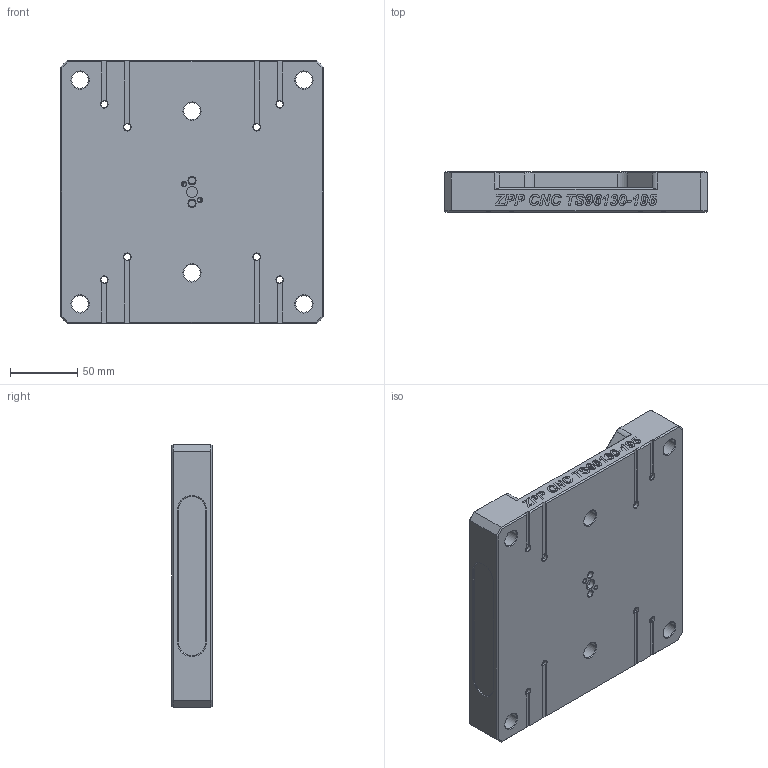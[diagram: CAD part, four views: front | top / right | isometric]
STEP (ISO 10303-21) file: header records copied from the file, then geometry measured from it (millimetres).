
FILE_DESCRIPTION((''),'2;1');
FILE_NAME('TS96130-195','2025-12-11T17:14:03',('XF'),(''),'CREO PARAMETRIC BY PTC INC, 2023073','CREO PARAMETRIC BY PTC INC, 2023073','');
FILE_SCHEMA(('CONFIG_CONTROL_DESIGN'));
Length unit declared in the file: millimetre
Products named in the file (1): TS96130-195
Bounding box: 195 x 30 x 195 mm (x, y, z)
Volume: 952714.2 mm3; surface area: 127224.2 mm2
Topology: 1 solids, 5 shells, 1062 faces, 3013 edges, 2025 vertices
Faces by surface type: extrusion 472, plane 336, cylinder 134, cone 104, torus 16
Entity records: 37016 total; most frequent: CARTESIAN_POINT 10682, ORIENTED_EDGE 5986, DIRECTION 4248, EDGE_CURVE 3001, VERTEX_POINT 2025, VECTOR 1892, B_SPLINE_CURVE_WITH_KNOTS 1466, LINE 1420
